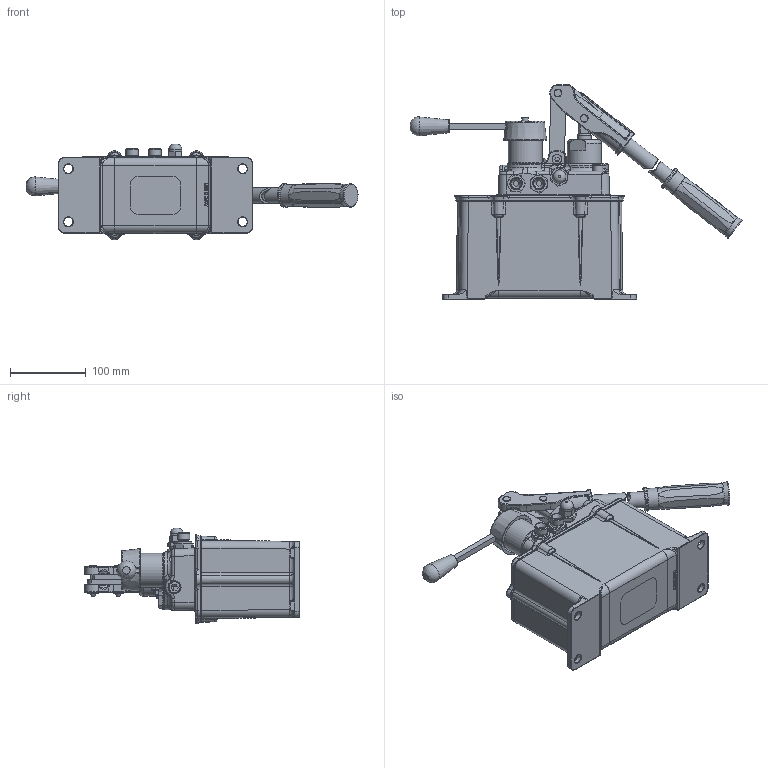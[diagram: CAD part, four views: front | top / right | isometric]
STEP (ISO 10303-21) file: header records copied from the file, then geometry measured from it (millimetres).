
FILE_DESCRIPTION(/* description */ ('Unknown'),/* implementation_level */ '2;1');
FILE_NAME(/* name */ 'GL290-DV-S2L',/* time_stamp */ '2024-12-03T15:38:12+01:00',/* author */ ('Unknown'),/* organization */ ('Unknown'),/* preprocessor_version */ 'ST-DEVELOPER v19.4',/* originating_system */ 'Solid Edge',/* authorisation */ 'Unknown');
FILE_SCHEMA (('AUTOMOTIVE_DESIGN {1 0 10303 214 3 1 1}'));
Products named in the file (1): GL290-DV-S2L
Bounding box: 438.11 x 283.86 x 126.44 mm (x, y, z)
Surface area: 288338.6 mm2
Topology: 1 solids, 54 shells, 1126 faces, 3471 edges, 2280 vertices
Faces by surface type: plane 320, cylinder 313, torus 204, bspline 188, cone 83, sphere 18
Full cylindrical faces by diameter (mm): 7 x2, 7.5 x2, 8 x4, 8.1 x1, 8.5 x1, 10 x2, 10.803 x1, 12 x6, 12.806 x1, 13 x3, 15 x1, 15.3 x1, 16 x3, 16.436 x2, 17 x1, 18 x1, 19 x1, 21 x4, 22 x2, 28 x2, 31.5 x1, 43 x1, 44.5 x1, 45 x1, 48.8 x1
Entity records: 52704 total; most frequent: CARTESIAN_POINT 24225, DIRECTION 5498, ORIENTED_EDGE 5460, EDGE_CURVE 3274, VERTEX_POINT 2243, AXIS2_PLACEMENT_3D 2155, EDGE_LOOP 1374, FACE_BOUND 1374
